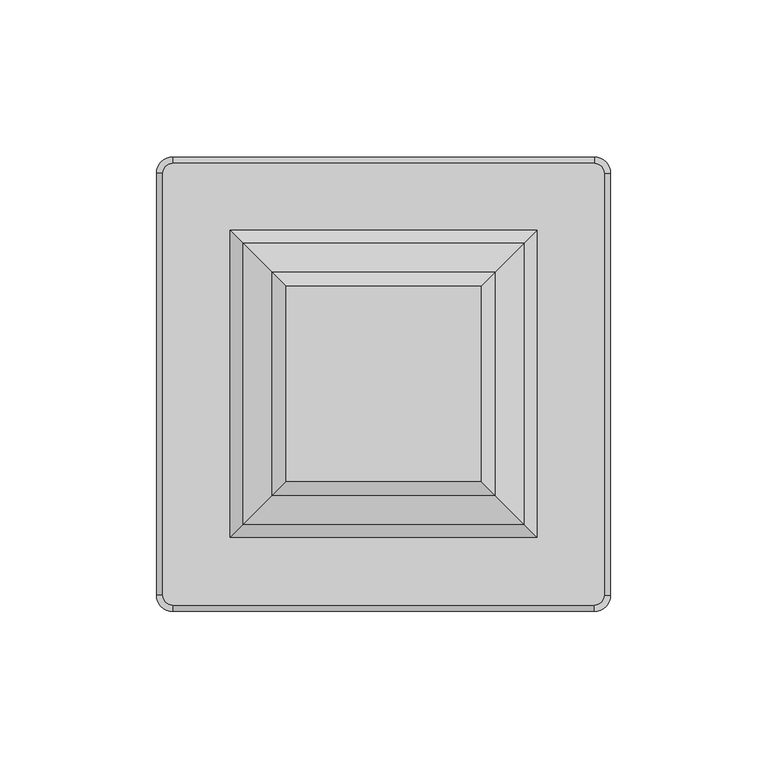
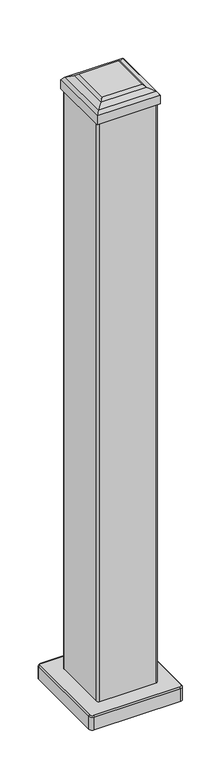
"""IFC4 building model written with IfcOpenShell, lengths in millimetres: railing geometry, NewTechWood - Westminister Gray."""

from ifc_helpers import new_model, si_unit, point, frame, frame_2d, origin, place, context, project, spatial, polyline, circle_curve, ellipse_curve, trimmed, segment, composite_curve, outline, extrude, faceted_brep, source, transform, mapped, element, save
from ifc_brep_helpers import plane_surface, cylinder_surface, revolved_surface, advanced_brep


def railing_236b51d1(model_context):
    return source(origin(), model_context, "Body", "SolidModel", [
        advanced_brep(
        [(-11588.7845942, 8215.3872573, 213.4891662), (-11454.1045942, 8215.3872573, 213.4891662), (-11450.9450268, 8218.5468247, 213.4891662), (-11450.9450268, 8353.2268247, 213.4891662), (-11454.1045942, 8356.3863921, 213.4891662), (-11588.7845942, 8356.3863921, 213.4891662), (-11591.9441616, 8353.2268247, 213.4891662), (-11591.9441616, 8218.5468247, 213.4891662), (-11448.9445942, 8353.2268247, 190.9891662), (-11448.9445942, 8218.5468247, 190.9891662), (-11454.1045942, 8213.3868247, 190.9891662), (-11588.7845942, 8213.3868247, 190.9891662), (-11593.9445942, 8218.5468247, 190.9891662), (-11593.9445942, 8353.2268247, 190.9891662), (-11588.7845942, 8358.3868247, 190.9891662), (-11454.1045942, 8358.3868247, 190.9891662), (-11448.9445942, 8353.2268247, 211.4887335), (-11448.9445942, 8218.5468247, 211.4887335), (-11454.1045942, 8213.3868247, 211.4887352), (-11588.7845942, 8213.3868247, 211.4887352), (-11593.9445942, 8218.5468247, 211.4887352), (-11593.9445942, 8353.2268247, 211.4887335), (-11588.7845942, 8358.3868247, 211.4887353), (-11454.1045942, 8358.3868247, 211.4887335)],
        [
            (0, 1),
            (1, 2, circle_curve(frame((-11454.1045942, 8218.5468247, 213.4891662), z_axis=(0.0, 0.0, 1.0), x_axis=(1.0, 0.0, 0.0)), 3.1595674)),
            (2, 3),
            (3, 4, circle_curve(frame((-11454.1045942, 8353.2268247, 213.4891662), z_axis=(0.0, 0.0, 1.0), x_axis=(0.0, 1.0, 0.0)), 3.1595674)),
            (4, 5),
            (5, 6, circle_curve(frame((-11588.7845942, 8353.2268247, 213.4891662), z_axis=(0.0, 0.0, 1.0), x_axis=(-1.0, 0.0, 0.0)), 3.1595674)),
            (6, 7),
            (7, 0, circle_curve(frame((-11588.7845942, 8218.5468247, 213.4891662), z_axis=(0.0, 0.0, 1.0), x_axis=(0.0, -1.0, 0.0)), 3.1595674)),
            (8, 9),
            (9, 10, circle_curve(frame((-11454.1045942, 8218.5468247, 190.9891662), z_axis=(0.0, 0.0, -1.0), x_axis=(0.0, 1.0, 0.0)), 5.16)),
            (10, 11),
            (11, 12, circle_curve(frame((-11588.7845942, 8218.5468247, 190.9891662), z_axis=(0.0, 0.0, -1.0), x_axis=(0.0, 1.0, 0.0)), 5.16)),
            (12, 13),
            (13, 14, circle_curve(frame((-11588.7845942, 8353.2268247, 190.9891662), z_axis=(0.0, 0.0, -1.0), x_axis=(0.0, 1.0, 0.0)), 5.16)),
            (14, 15),
            (15, 8, circle_curve(frame((-11454.1045942, 8353.2268247, 190.9891662), z_axis=(0.0, 0.0, -1.0), x_axis=(0.0, 1.0, 0.0)), 5.16)),
            (8, 16),
            (16, 17),
            (17, 9),
            (17, 18, circle_curve(frame((-11454.1045942, 8218.5468247, 211.4887335), z_axis=(0.0, 0.0, -1.0), x_axis=(0.0, 1.0, 0.0)), 5.16)),
            (18, 10),
            (18, 19),
            (19, 11),
            (19, 20, circle_curve(frame((-11588.7845942, 8218.5468247, 211.4887335), z_axis=(0.0, 0.0, -1.0), x_axis=(0.0, 1.0, 0.0)), 5.16)),
            (20, 12),
            (20, 21),
            (21, 13),
            (21, 22, circle_curve(frame((-11588.7845942, 8353.2268247, 211.4887335), z_axis=(0.0, 0.0, -1.0), x_axis=(0.0, 1.0, 0.0)), 5.16)),
            (22, 14),
            (22, 23),
            (23, 15),
            (23, 16, circle_curve(frame((-11454.1045942, 8353.2268247, 211.4887335), z_axis=(0.0, 0.0, -1.0), x_axis=(0.0, 1.0, 0.0)), 5.16)),
            (19, 0, circle_curve(frame((-11588.7845942, 8215.3872573, 211.4887335), z_axis=(-1.0, 0.0, 0.0), x_axis=(0.0, 1.0, 0.0)), 2.0004326)),
            (7, 20, circle_curve(frame((-11591.9441616, 8218.5468247, 211.4887335), z_axis=(0.0, -1.0, 0.0), x_axis=(1.0, 0.0, 0.0)), 2.0004326)),
            (6, 21, circle_curve(frame((-11591.9441616, 8353.2268247, 211.4887335), z_axis=(0.0, -1.0, 0.0), x_axis=(1.0, 0.0, 0.0)), 2.0004326)),
            (5, 22, circle_curve(frame((-11588.7845942, 8356.3863921, 211.4887335), z_axis=(-1.0, 0.0, 0.0), x_axis=(0.0, -1.0, 0.0)), 2.0004326)),
            (4, 23, circle_curve(frame((-11454.1045942, 8356.3863921, 211.4887335), z_axis=(-1.0, 0.0, 0.0), x_axis=(0.0, -1.0, 0.0)), 2.0004326)),
            (3, 16, circle_curve(frame((-11450.9450268, 8353.2268247, 211.4887335), z_axis=(0.0, 1.0, 0.0), x_axis=(-1.0, 0.0, 0.0)), 2.0004326)),
            (2, 17, circle_curve(frame((-11450.9450268, 8218.5468247, 211.4887335), z_axis=(0.0, 1.0, 0.0), x_axis=(-1.0, 0.0, 0.0)), 2.0004326)),
            (1, 18, circle_curve(frame((-11454.1045942, 8215.3872573, 211.4887335), z_axis=(1.0, 0.0, 0.0), x_axis=(0.0, 1.0, 0.0)), 2.0004326)),
        ],
        [
            plane_surface(frame((-11448.9445942, 8326.4508309, 213.4891662), z_axis=(0.0, 0.0, 1.0), x_axis=(0.0, -1.0, 0.0))),
            plane_surface(frame((-11448.9445942, 8326.4508309, 190.9891662), z_axis=(0.0, 0.0, -1.0), x_axis=(0.0, 1.0, 0.0))),
            plane_surface(frame((-11448.9445942, 8353.2268247, 213.4891662), z_axis=(1.0, 0.0, 0.0), x_axis=(0.0, 0.0, -1.0))),
            cylinder_surface(frame((-11454.1045942, 8218.5468247, 190.9891662), z_axis=(0.0, 0.0, 1.0), x_axis=(0.0, 1.0, 0.0)), 5.16),
            plane_surface(frame((-11454.1045942, 8213.3868247, 213.4891662), z_axis=(0.0, -1.0, 0.0), x_axis=(0.0, 0.0, -1.0))),
            cylinder_surface(frame((-11588.7845942, 8218.5468247, 190.9891662), z_axis=(0.0, 0.0, 1.0), x_axis=(0.0, 1.0, 0.0)), 5.16),
            plane_surface(frame((-11593.9445942, 8218.5468247, 213.4891662), z_axis=(-1.0, 0.0, 0.0), x_axis=(0.0, 0.0, -1.0))),
            cylinder_surface(frame((-11588.7845942, 8353.2268247, 190.9891662), z_axis=(0.0, 0.0, 1.0), x_axis=(0.0, 1.0, 0.0)), 5.16),
            plane_surface(frame((-11588.7845942, 8358.3868247, 213.4891662), z_axis=(0.0, 1.0, 0.0), x_axis=(0.0, 0.0, -1.0))),
            cylinder_surface(frame((-11454.1045942, 8353.2268247, 190.9891662), z_axis=(0.0, 0.0, 1.0), x_axis=(0.0, 1.0, 0.0)), 5.16),
            revolved_surface(trimmed(ellipse_curve(frame((-11588.7845942, 8215.3872573, 211.4887335), z_axis=(-1.0, 0.0, 0.0), x_axis=(0.0, 1.0, 0.0)), 2.0004326, 2.0004326), [point((-11588.7845942, 8213.3868247, 211.4887335))], [point((-11588.7845942, 8215.3872573, 213.4891662))], True, "CARTESIAN"), (-11588.7845942, 8218.5468247, 213.4891662), (0.0, 0.0, 1.0)),
            cylinder_surface(frame((-11591.9441616, 8218.5468247, 211.4887335), z_axis=(0.0, 1.0, 0.0), x_axis=(1.0, 0.0, 0.0)), 2.0004326),
            revolved_surface(trimmed(ellipse_curve(frame((-11591.9441616, 8353.2268247, 211.4887335), z_axis=(0.0, 1.0, 0.0), x_axis=(1.0, 0.0, 0.0)), 2.0004326, 2.0004326), [point((-11593.9445942, 8353.2268247, 211.4887335))], [point((-11591.9441616, 8353.2268247, 213.4891662))], True, "CARTESIAN"), (-11588.7845942, 8353.2268247, 213.4891662), (0.0, 0.0, 1.0)),
            cylinder_surface(frame((-11588.7845942, 8356.3863921, 211.4887335), z_axis=(1.0, 0.0, 0.0), x_axis=(0.0, -1.0, 0.0)), 2.0004326),
            revolved_surface(trimmed(ellipse_curve(frame((-11454.1045942, 8356.3863921, 211.4887335), z_axis=(1.0, 0.0, 0.0), x_axis=(0.0, -1.0, 0.0)), 2.0004326, 2.0004326), [point((-11454.1045942, 8358.3868247, 211.4887335))], [point((-11454.1045942, 8356.3863921, 213.4891662))], True, "CARTESIAN"), (-11454.1045942, 8353.2268247, 213.4891662), (0.0, 0.0, 1.0)),
            cylinder_surface(frame((-11450.9450268, 8353.2268247, 211.4887335), z_axis=(0.0, -1.0, 0.0), x_axis=(-1.0, 0.0, 0.0)), 2.0004326),
            revolved_surface(trimmed(ellipse_curve(frame((-11450.9450268, 8218.5468247, 211.4887335), z_axis=(0.0, -1.0, 0.0), x_axis=(-1.0, 0.0, 0.0)), 2.0004326, 2.0004326), [point((-11448.9445942, 8218.5468247, 211.4887335))], [point((-11450.9450268, 8218.5468247, 213.4891662))], True, "CARTESIAN"), (-11454.1045942, 8218.5468247, 213.4891662), (0.0, 0.0, 1.0)),
            cylinder_surface(frame((-11454.1045942, 8215.3872573, 211.4887335), z_axis=(-1.0, 0.0, 0.0), x_axis=(0.0, 1.0, 0.0)), 2.0004326),
        ],
        [
            (0, [[1, 2, 3, 4, 5, 6, 7, 8]]),
            (1, [[9, 10, 11, 12, 13, 14, 15, 16]]),
            (2, [[17, 18, 19, -9]]),
            (3, [[-19, 20, 21, -10]]),
            (4, [[-21, 22, 23, -11]]),
            (5, [[-23, 24, 25, -12]]),
            (6, [[-25, 26, 27, -13]]),
            (7, [[-27, 28, 29, -14]]),
            (8, [[-29, 30, 31, -15]]),
            (9, [[-31, 32, -17, -16]]),
            (10, [[-24, 33, -8, 34]]),
            (11, [[-7, 35, -26, -34]]),
            (12, [[-6, 36, -28, -35]]),
            (13, [[-5, 37, -30, -36]]),
            (14, [[-4, 38, -32, -37]]),
            (15, [[-3, 39, -18, -38]]),
            (16, [[-2, 40, -20, -39]]),
            (17, [[-22, -40, -1, -33]]),
        ],
    ),
        faceted_brep([(-11570.4945942, 8236.8368247, 1181.7588652), (-11570.4945942, 8334.9368247, 1181.7588652), (-11570.4945942, 8334.9368247, 1167.1288652), (-11570.4945942, 8236.8368247, 1167.1288652), (-11566.4619181, 8240.8695008, 1187.0717197), (-11566.4619181, 8330.9041486, 1187.0717197), (-11557.2368105, 8250.0946084, 1191.5850654), (-11557.2368105, 8321.6790409, 1191.5850654), (-11552.7400431, 8254.5913758, 1195.3891662), (-11552.7400431, 8317.1822735, 1195.3891662), (-11472.3945942, 8334.9368247, 1181.7588652), (-11472.3945942, 8334.9368247, 1167.1288652), (-11476.4272703, 8330.9041486, 1187.0717197), (-11485.652378, 8321.6790409, 1191.5850654), (-11490.1491454, 8317.1822735, 1195.3891662), (-11472.3945942, 8236.8368247, 1181.7588652), (-11472.3945942, 8236.8368247, 1167.1288652), (-11476.4272703, 8240.8695008, 1187.0717197), (-11485.652378, 8250.0946084, 1191.5850654), (-11490.1491454, 8254.5913758, 1195.3891662)], [[[0, 1, 2, 3]], [[4, 5, 1, 0]], [[6, 7, 5, 4]], [[8, 9, 7, 6]], [[1, 10, 11, 2]], [[5, 12, 10, 1]], [[7, 13, 12, 5]], [[9, 14, 13, 7]], [[10, 15, 16, 11]], [[12, 17, 15, 10]], [[13, 18, 17, 12]], [[14, 19, 18, 13]], [[15, 0, 3, 16]], [[17, 4, 0, 15]], [[18, 6, 4, 17]], [[19, 8, 6, 18]], [[9, 8, 19, 14]], [[3, 2, 11, 16]]]),
        extrude(outline(composite_curve([segment(polyline([(-11477.8545942, 8238.6868247), (-11565.0345942, 8238.6868247)]), True, "CONTINUOUS"), segment(trimmed(circle_curve(frame_2d((-11565.0345942, 8242.2968247)), 3.61), [point((-11565.0345942, 8238.6868247))], [point((-11568.6445942, 8242.2968247))], False, "CARTESIAN"), True, "CONTINUOUS"), segment(polyline([(-11568.6445942, 8242.2968247), (-11568.6445942, 8329.4768247)]), True, "CONTINUOUS"), segment(trimmed(circle_curve(frame_2d((-11565.0345942, 8329.4768247)), 3.61), [point((-11568.6445942, 8329.4768247))], [point((-11565.0345942, 8333.0868247))], False, "CARTESIAN"), True, "CONTINUOUS"), segment(polyline([(-11565.0345942, 8333.0868247), (-11477.8545942, 8333.0868247)]), True, "CONTINUOUS"), segment(trimmed(circle_curve(frame_2d((-11477.8545942, 8329.4768247)), 3.61), [point((-11477.8545942, 8333.0868247))], [point((-11474.2445942, 8329.4768247))], False, "CARTESIAN"), True, "CONTINUOUS"), segment(polyline([(-11474.2445942, 8329.4768247), (-11474.2445942, 8242.2968247)]), True, "CONTINUOUS"), segment(trimmed(circle_curve(frame_2d((-11477.8545942, 8242.2968247)), 3.61), [point((-11474.2445942, 8242.2968247))], [point((-11477.8545942, 8238.6868247))], False, "CARTESIAN"), True, "CONTINUOUS")], self_intersect=False)), frame((0.0, 0.0, 213.4891662), z_axis=(0.0, 0.0, 1.0), x_axis=(1.0, 0.0, 0.0)), (0.0, 0.0, 1.0), 953.639699),
    ])


if __name__ == "__main__":
    model = new_model("IFC4")
    model_context = context("Model", 3, world=origin())
    ifc_project = project(units=[si_unit("LENGTHUNIT", "METRE", prefix="MILLI")], contexts=[model_context])
    site = spatial("IfcSite", under=ifc_project)
    building = spatial("IfcBuilding", under=site)
    placement = place(None, origin())
    railing_shape = railing_236b51d1(model_context)
    element("IfcRailing", 1, ObjectType="NewTechWood - Westminister Gray", at=placement, inside=building, context=model_context, shape_type="MappedRepresentation", body=[
        mapped(railing_shape, transform((0.0, 0.0, 0.0), x_axis=(1.0, 0.0, 0.0), y_axis=(0.0, 1.0, 0.0), z_axis=(0.0, 0.0, 1.0))),
    ])
    save(model, "model.ifc")
